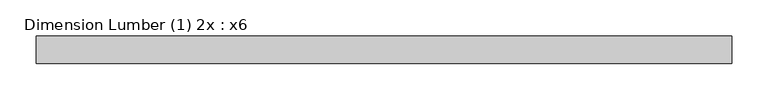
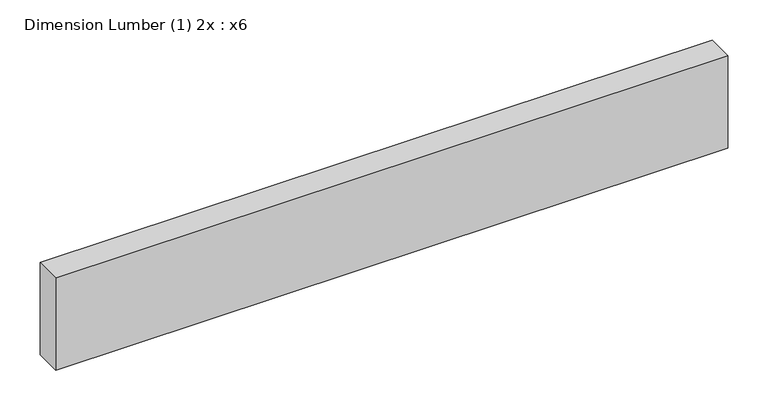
"""IFC4 building model written with IfcOpenShell, lengths in millimetres: beam geometry, Dimension Lumber (1) 2x : x6."""

from ifc_helpers import new_model, si_unit, frame, origin, place, context, project, spatial, polyline, outline, extrude, source, transform, mapped, element, save


def dimension_lumber_1_2x_x6_9cb2d545(model_context):
    return source(origin(), model_context, "Body", "SweptSolid", [
        extrude(outline(polyline([(479.9076, 19.05), (479.9076, -19.05), (-479.9076, -19.05), (-479.9076, 19.05), (479.9076, 19.05)])), frame((0.0, 0.0, -69.85), z_axis=(0.0, 0.0, 1.0), x_axis=(1.0, 0.0, 0.0)), (0.0, 0.0, 1.0), 139.7),
    ])


if __name__ == "__main__":
    model = new_model("IFC4")
    model_context = context("Model", 3, world=origin())
    ifc_project = project(units=[si_unit("LENGTHUNIT", "METRE", prefix="MILLI")], contexts=[model_context])
    site = spatial("IfcSite", under=ifc_project)
    building = spatial("IfcBuilding", under=site)
    placement = place(None, origin())
    dimension_lumber_1_2x_x6_shape = dimension_lumber_1_2x_x6_9cb2d545(model_context)
    element("IfcBeam", 1, ObjectType="Dimension Lumber (1) 2x : x6", at=placement, inside=building, context=model_context, shape_type="MappedRepresentation", body=[
        mapped(dimension_lumber_1_2x_x6_shape, transform((0.0, 0.0, 0.0), x_axis=(1.0, 0.0, 0.0), y_axis=(0.0, 1.0, 0.0), z_axis=(0.0, 0.0, 1.0))),
    ])
    save(model, "model.ifc")
